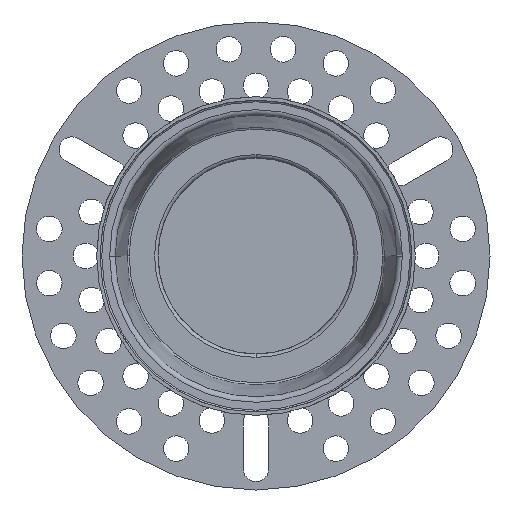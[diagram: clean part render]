
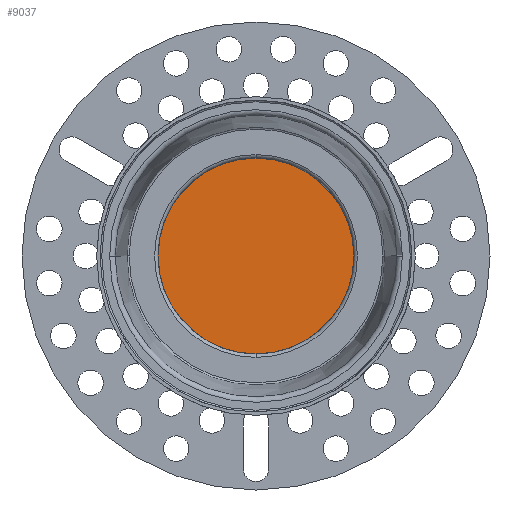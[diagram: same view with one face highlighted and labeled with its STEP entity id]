
A CAD part, front view. The second image highlights one B-rep face of the part: STEP entity #9037.
In plain terms, the highlighted planar face has unit normal (0, -1, 0).
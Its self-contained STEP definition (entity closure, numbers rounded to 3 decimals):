
#8990=CARTESIAN_POINT('',(0.,0.,0.));
#8991=DIRECTION('',(0.,1.,0.));
#8992=DIRECTION('',(1.,0.,0.));
#8993=AXIS2_PLACEMENT_3D('',#8990,#8991,#8992);
#8995=CARTESIAN_POINT('',(0.,0.,0.));
#8996=DIRECTION('',(0.,1.,0.));
#8997=DIRECTION('',(-1.,0.,0.));
#8998=AXIS2_PLACEMENT_3D('',#8995,#8996,#8997);
#9018=CARTESIAN_POINT('',(25.,0.,0.));
#9019=CARTESIAN_POINT('',(-25.,0.,0.));
#9020=VERTEX_POINT('',#9018);
#9021=VERTEX_POINT('',#9019);
#9026=CARTESIAN_POINT('',(0.,0.,0.));
#9027=DIRECTION('',(0.,1.,0.));
#9028=DIRECTION('',(1.,0.,0.));
#9029=AXIS2_PLACEMENT_3D('',#9026,#9027,#9028);
#9030=PLANE('',#9029);
#9032=ORIENTED_EDGE('',*,*,#9031,.T.);
#9034=ORIENTED_EDGE('',*,*,#9033,.T.);
#9035=EDGE_LOOP('',(#9032,#9034));
#9036=FACE_OUTER_BOUND('',#9035,.F.);
#8994=CIRCLE('',#8993,25.);
#8999=CIRCLE('',#8998,25.);
#9031=EDGE_CURVE('',#9020,#9021,#8994,.T.);
#9033=EDGE_CURVE('',#9021,#9020,#8999,.T.);
#9037=ADVANCED_FACE('',(#9036),#9030,.F.);
